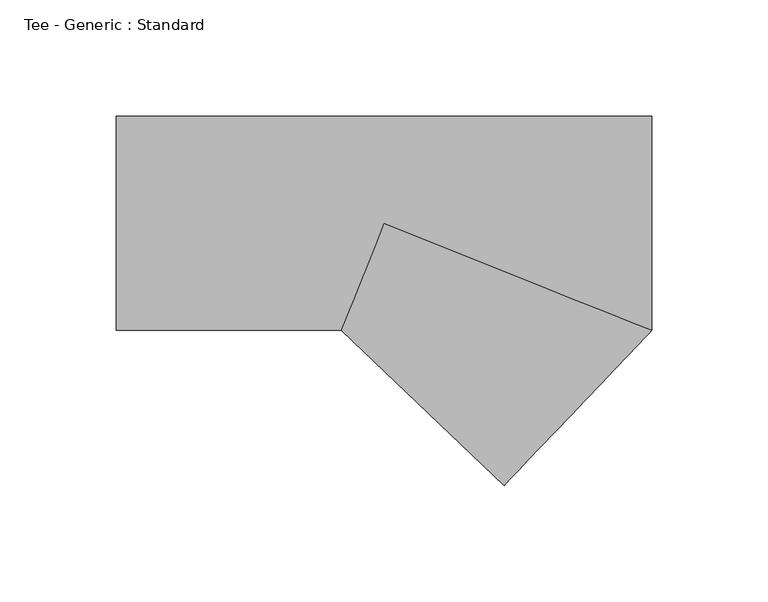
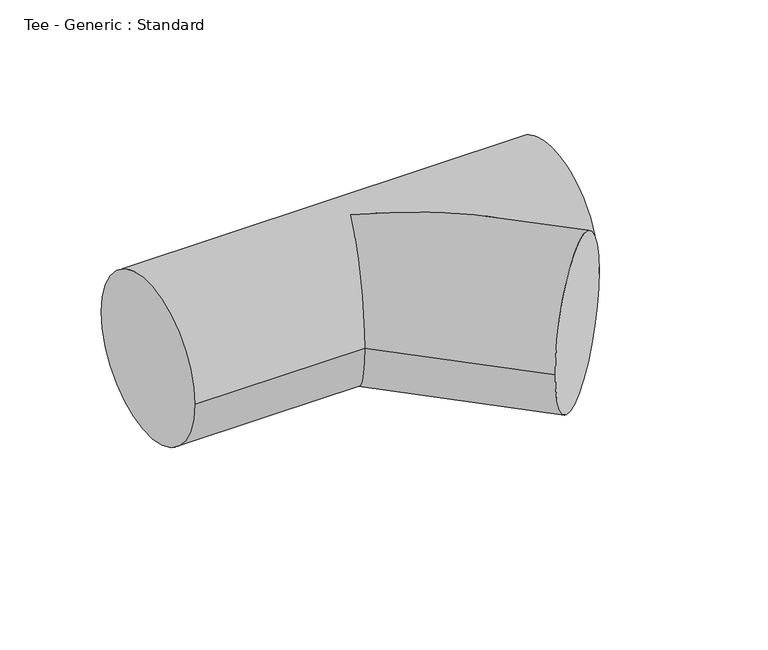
"""IFC4 building model written with IfcOpenShell, lengths in millimetres: pipe fitting geometry, Tee - Generic : Standard."""

from ifc_helpers import new_model, si_unit, frame, origin, place, context, project, spatial, circle_curve, ellipse_curve, source, transform, mapped, element, save
from ifc_brep_helpers import plane_surface, cylinder_surface, advanced_brep


def tee_generic_standard_02cc237d(model_context):
    return source(origin(), model_context, "Body", "AdvancedBrep", [
        advanced_brep(
        [(-115.096427, -46.0375, 0.0), (-115.096427, 46.0375, 0.0), (115.096427, -46.0375, 0.0), (115.096427, 46.0375, 0.0), (-18.4145717, -46.0375, 0.0), (0.0, 0.0, 46.0375), (0.0, 0.0, -46.0375), (51.5974965, -112.7135186, 0.0)],
        [
            (0, 1, circle_curve(frame((-115.096427, 0.0, 0.0), z_axis=(-1.0, 0.0, 0.0), x_axis=(0.0, 1.0, 0.0)), 46.0375)),
            (1, 0, circle_curve(frame((-115.096427, 0.0, 0.0), z_axis=(-1.0, 0.0, 0.0), x_axis=(0.0, 1.0, 0.0)), 46.0375)),
            (2, 3, circle_curve(frame((115.096427, 0.0, 0.0), z_axis=(1.0, 0.0, 0.0), x_axis=(0.0, 1.0, 0.0)), 46.0375)),
            (3, 2, circle_curve(frame((115.096427, 0.0, 0.0), z_axis=(1.0, 0.0, 0.0), x_axis=(0.0, 1.0, 0.0)), 46.0375)),
            (0, 4),
            (4, 5, ellipse_curve(frame((0.0, 0.0, 0.0), z_axis=(-0.9284796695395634, 0.3713832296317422, 0.0), x_axis=(-0.3713832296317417, -0.9284796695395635, 0.0)), 49.5837459, 46.0375)),
            (5, 2, ellipse_curve(frame((0.0, 0.0, 0.0), z_axis=(0.37138322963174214, 0.9284796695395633, 0.0), x_axis=(-0.9284796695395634, 0.37138322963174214, 0.0)), 123.962248, 46.0375)),
            (3, 1),
            (2, 6, ellipse_curve(frame((0.0, 0.0, 0.0), z_axis=(0.37138322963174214, 0.9284796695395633, 0.0), x_axis=(-0.9284796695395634, 0.37138322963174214, 0.0)), 123.962248, 46.0375)),
            (6, 4, ellipse_curve(frame((0.0, 0.0, 0.0), z_axis=(-0.9284796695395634, 0.3713832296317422, 0.0), x_axis=(-0.3713832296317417, -0.9284796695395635, 0.0)), 49.5837459, 46.0375)),
            (7, 2, circle_curve(frame((83.3469618, -79.3755093, 0.0), z_axis=(0.7241489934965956, -0.6896435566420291, 0.0), x_axis=(0.6896435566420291, 0.7241489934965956, 0.0)), 46.0375)),
            (2, 7, circle_curve(frame((83.3469618, -79.3755093, 0.0), z_axis=(0.7241489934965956, -0.6896435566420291, 0.0), x_axis=(0.6896435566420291, 0.7241489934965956, 0.0)), 46.0375)),
            (4, 7),
        ],
        [
            plane_surface(frame((-115.096427, 0.0, 0.0), z_axis=(-1.0, 0.0, 0.0), x_axis=(0.0, 0.0, 1.0))),
            plane_surface(frame((115.096427, 0.0, 0.0), z_axis=(1.0, 0.0, 0.0), x_axis=(0.0, 0.0, 1.0))),
            cylinder_surface(frame((-115.096427, 0.0, 0.0), z_axis=(-1.0, 0.0, 0.0), x_axis=(0.0, 1.0, 0.0)), 46.0375),
            plane_surface(frame((83.3469618, -79.3755093, 0.0), z_axis=(0.7241489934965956, -0.6896435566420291, 0.0), x_axis=(0.0, 0.0, 1.0))),
            cylinder_surface(frame((0.0, 0.0, 0.0), z_axis=(-0.7241489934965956, 0.6896435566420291, 0.0), x_axis=(0.6896435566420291, 0.7241489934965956, 0.0)), 46.0375),
        ],
        [
            (0, [[1, 2]]),
            (1, [[3, 4]]),
            (2, [[-1, 5, 6, 7, -4, 8]]),
            (2, [[-2, -8, -3, 9, 10, -5]]),
            (3, [[11, 12]]),
            (4, [[-12, -7, -6, 13]]),
            (4, [[-11, -13, -10, -9]]),
        ],
    ),
    ])


if __name__ == "__main__":
    model = new_model("IFC4")
    model_context = context("Model", 3, world=origin())
    ifc_project = project(units=[si_unit("LENGTHUNIT", "METRE", prefix="MILLI")], contexts=[model_context])
    site = spatial("IfcSite", under=ifc_project)
    building = spatial("IfcBuilding", under=site)
    placement = place(None, origin())
    tee_generic_standard_shape = tee_generic_standard_02cc237d(model_context)
    element("IfcPipeFitting", 1, ObjectType="Tee - Generic : Standard", at=placement, inside=building, context=model_context, shape_type="MappedRepresentation", body=[
        mapped(tee_generic_standard_shape, transform((0.0, 0.0, 0.0), x_axis=(1.0, 0.0, 0.0), y_axis=(0.0, 1.0, 0.0), z_axis=(0.0, 0.0, 1.0))),
    ])
    save(model, "model.ifc")
